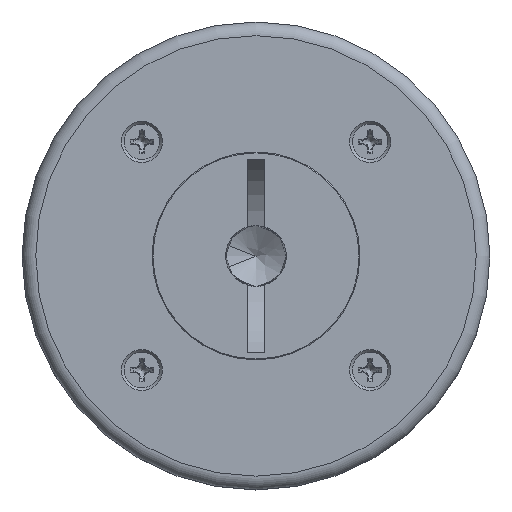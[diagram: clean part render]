
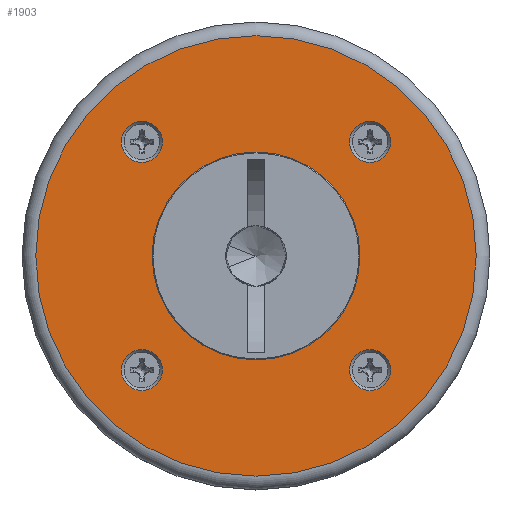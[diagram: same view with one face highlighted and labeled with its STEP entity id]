
A CAD part, top view. The second image highlights one B-rep face of the part: STEP entity #1903.
In plain terms, the highlighted planar face has unit normal (0, 0, 1) as drawn and (0, 1, 0) by its records, which use the part's own axes.
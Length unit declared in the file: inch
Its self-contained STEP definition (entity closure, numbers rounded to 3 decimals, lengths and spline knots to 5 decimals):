
#1808=CARTESIAN_POINT('',(-1.0025,0.975,0.));
#1809=VERTEX_POINT('',#1808);
#1810=CARTESIAN_POINT('',(0.0,0.975,0.0));
#1811=DIRECTION('',(0.0,-1.0,0.0));
#1812=DIRECTION('',(1.0,0.0,0.0));
#1813=AXIS2_PLACEMENT_3D('',#1810,#1811,#1812);
#1814=CIRCLE('',#1813,1.0025);
#1815=EDGE_CURVE('',#1809,#1809,#1814,.T.);
#1840=CARTESIAN_POINT('',(-0.5325,0.975,0.0));
#1841=DIRECTION('',(0.0,1.0,0.0));
#1842=DIRECTION('',(0.0,0.0,1.0));
#1843=AXIS2_PLACEMENT_3D('',#1840,#1841,#1842);
#1844=PLANE('',#1843);
#1845=ORIENTED_EDGE('',*,*,#1815,.F.);
#1846=EDGE_LOOP('',(#1845));
#1847=FACE_OUTER_BOUND('',#1846,.T.);
#1848=CARTESIAN_POINT('',(-0.426,0.975,-0.5195));
#1849=VERTEX_POINT('',#1848);
#1850=CARTESIAN_POINT('',(-0.5195,0.975,-0.5195));
#1851=DIRECTION('',(0.0,-1.0,0.0));
#1852=DIRECTION('',(1.0,0.0,0.0));
#1853=AXIS2_PLACEMENT_3D('',#1850,#1851,#1852);
#1854=CIRCLE('',#1853,0.0935);
#1855=EDGE_CURVE('',#1849,#1849,#1854,.T.);
#1856=ORIENTED_EDGE('',*,*,#1855,.T.);
#1857=EDGE_LOOP('',(#1856));
#1858=FACE_BOUND('',#1857,.T.);
#1859=CARTESIAN_POINT('',(0.613,0.975,-0.5195));
#1860=VERTEX_POINT('',#1859);
#1861=CARTESIAN_POINT('',(0.5195,0.975,-0.5195));
#1862=DIRECTION('',(0.0,-1.0,0.0));
#1863=DIRECTION('',(1.0,0.0,0.0));
#1864=AXIS2_PLACEMENT_3D('',#1861,#1862,#1863);
#1865=CIRCLE('',#1864,0.0935);
#1866=EDGE_CURVE('',#1860,#1860,#1865,.T.);
#1867=ORIENTED_EDGE('',*,*,#1866,.T.);
#1868=EDGE_LOOP('',(#1867));
#1869=FACE_BOUND('',#1868,.T.);
#1870=CARTESIAN_POINT('',(0.613,0.975,0.5195));
#1871=VERTEX_POINT('',#1870);
#1872=CARTESIAN_POINT('',(0.5195,0.975,0.5195));
#1873=DIRECTION('',(0.0,-1.0,0.0));
#1874=DIRECTION('',(1.0,0.0,0.0));
#1875=AXIS2_PLACEMENT_3D('',#1872,#1873,#1874);
#1876=CIRCLE('',#1875,0.0935);
#1877=EDGE_CURVE('',#1871,#1871,#1876,.T.);
#1878=ORIENTED_EDGE('',*,*,#1877,.T.);
#1879=EDGE_LOOP('',(#1878));
#1880=FACE_BOUND('',#1879,.T.);
#1881=CARTESIAN_POINT('',(-0.426,0.975,0.5195));
#1882=VERTEX_POINT('',#1881);
#1883=CARTESIAN_POINT('',(-0.5195,0.975,0.5195));
#1884=DIRECTION('',(0.0,-1.0,0.0));
#1885=DIRECTION('',(1.0,0.0,0.0));
#1886=AXIS2_PLACEMENT_3D('',#1883,#1884,#1885);
#1887=CIRCLE('',#1886,0.0935);
#1888=EDGE_CURVE('',#1882,#1882,#1887,.T.);
#1889=ORIENTED_EDGE('',*,*,#1888,.T.);
#1890=EDGE_LOOP('',(#1889));
#1891=FACE_BOUND('',#1890,.T.);
#1892=CARTESIAN_POINT('',(-0.473,0.975,0.0));
#1893=VERTEX_POINT('',#1892);
#1894=CARTESIAN_POINT('',(0.0,0.975,0.0));
#1895=DIRECTION('',(0.0,-1.0,0.0));
#1896=DIRECTION('',(-1.0,0.0,0.0));
#1897=AXIS2_PLACEMENT_3D('',#1894,#1895,#1896);
#1898=CIRCLE('',#1897,0.473);
#1899=EDGE_CURVE('',#1893,#1893,#1898,.T.);
#1900=ORIENTED_EDGE('',*,*,#1899,.T.);
#1901=EDGE_LOOP('',(#1900));
#1902=FACE_BOUND('',#1901,.T.);
#1903=ADVANCED_FACE('',(#1847,#1858,#1869,#1880,#1891,#1902),#1844,.T.);
